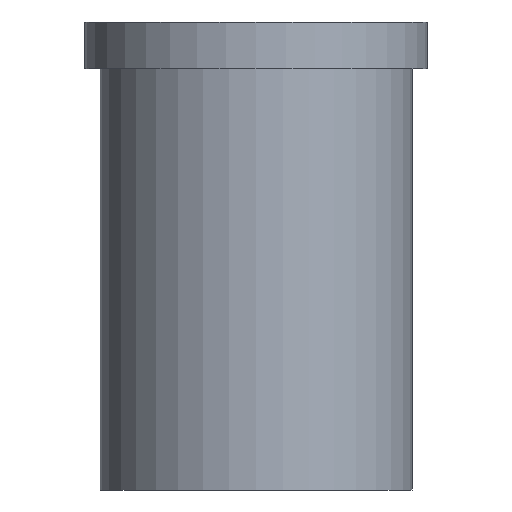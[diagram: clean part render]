
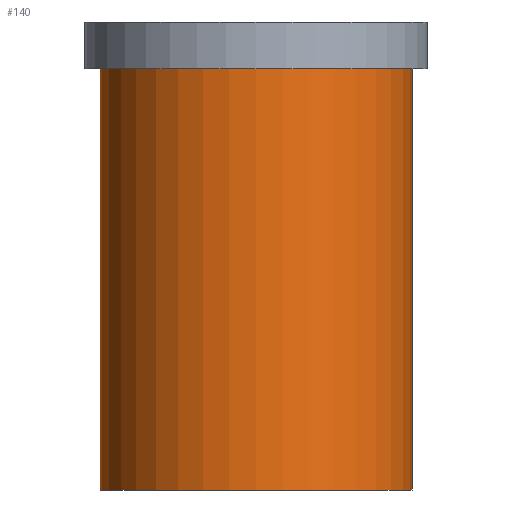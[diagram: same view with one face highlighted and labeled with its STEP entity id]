
A CAD part, front view. The second image highlights one B-rep face of the part: STEP entity #140.
In plain terms, the highlighted cylindrical face has radius 10 mm (diameter 20 mm), a partial arc.
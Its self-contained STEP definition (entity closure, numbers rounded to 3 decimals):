
#101=CYLINDRICAL_SURFACE('',#313,10.);
#107=LINE('',#441,#113);
#108=LINE('',#442,#114);
#113=VECTOR('',#383,1.);
#114=VECTOR('',#384,1.);
#127=FACE_OUTER_BOUND('',#165,.T.);
#140=ADVANCED_FACE('',(#127),#101,.T.);
#165=EDGE_LOOP('',(#211,#212,#213,#214));
#211=ORIENTED_EDGE('',*,*,#259,.T.);
#212=ORIENTED_EDGE('',*,*,#236,.F.);
#213=ORIENTED_EDGE('',*,*,#260,.F.);
#214=ORIENTED_EDGE('',*,*,#257,.T.);
#219=VERTEX_POINT('',#391);
#220=VERTEX_POINT('',#392);
#233=VERTEX_POINT('',#437);
#234=VERTEX_POINT('',#438);
#236=EDGE_CURVE('',#220,#219,#262,.T.);
#257=EDGE_CURVE('',#233,#234,#279,.T.);
#259=EDGE_CURVE('',#234,#219,#107,.T.);
#260=EDGE_CURVE('',#233,#220,#108,.T.);
#262=CIRCLE('',#283,10.);
#279=CIRCLE('',#310,10.);
#283=AXIS2_PLACEMENT_3D('',#393,#319,#320);
#310=AXIS2_PLACEMENT_3D('',#436,#377,#378);
#313=AXIS2_PLACEMENT_3D('',#443,#385,#386);
#319=DIRECTION('',(0.,0.,-1.));
#320=DIRECTION('',(0.,1.,0.));
#377=DIRECTION('',(0.,0.,-1.));
#378=DIRECTION('',(0.,1.,0.));
#383=DIRECTION('',(0.,0.,-1.));
#384=DIRECTION('',(0.,0.,-1.));
#385=DIRECTION('',(0.,0.,-1.));
#386=DIRECTION('',(0.,-1.,0.));
#391=CARTESIAN_POINT('',(-10.,0.,-27.));
#392=CARTESIAN_POINT('',(10.,0.,-27.));
#393=CARTESIAN_POINT('',(0.,0.,-27.));
#436=CARTESIAN_POINT('',(0.,0.,0.));
#437=CARTESIAN_POINT('',(10.,0.,0.));
#438=CARTESIAN_POINT('',(-10.,0.,0.));
#441=CARTESIAN_POINT('',(-10.,0.,-27.));
#442=CARTESIAN_POINT('',(10.,0.,-27.));
#443=CARTESIAN_POINT('',(0.,0.,0.));
